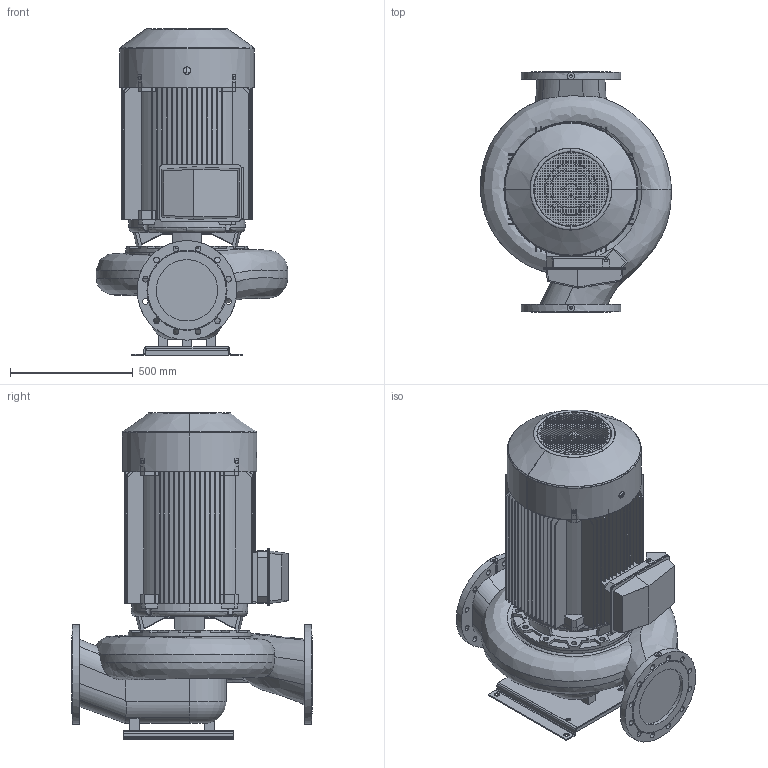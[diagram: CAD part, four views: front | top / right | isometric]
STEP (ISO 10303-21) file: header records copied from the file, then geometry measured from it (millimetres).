
FILE_DESCRIPTION(('STEP AP214'),'1');
FILE_NAME('export.stp','2018-05-28T11:22:27',(' '),(' '),'Spatial InterOp 3D',' ',' ');
FILE_SCHEMA(('AUTOMOTIVE_DESIGN { 1 0 10303 214 1 1 1 1 }'));
Length unit declared in the file: millimetre
Products named in the file (13): W_AL12504900KP288; V_TLL125SAL1250; V_PPAL1250; P100464; P100462; P101191; V_MKP288-K2-F43; R200072; R200179; R200570; R200305; R200306; R200302
Assembly tree (13 placements, depth 3):
  W_AL12504900KP288
    V_TLL125SAL1250
    V_PPAL1250
    P100464
      P100462
      P101191  x2
    V_MKP288-K2-F43
      R200072
      R200179
      R200570
      R200305
      R200306
      R200302
Bounding box: 778.96 x 980 x 1330.6 mm (x, y, z)
Volume: 135235722.9 mm3; surface area: 10580591.6 mm2
Topology: 11 solids, 11 shells, 3515 faces, 10331 edges, 6856 vertices
Faces by surface type: plane 2861, cylinder 477, cone 62, bspline 60, torus 55
Entity records: 167087 total; most frequent: CARTESIAN_POINT 27908, ORIENTED_EDGE 20474, DIRECTION 17920, EDGE_CURVE 10237, LINE 8736, VECTOR 8736, VERTEX_POINT 6804, STYLED_ITEM 6560
